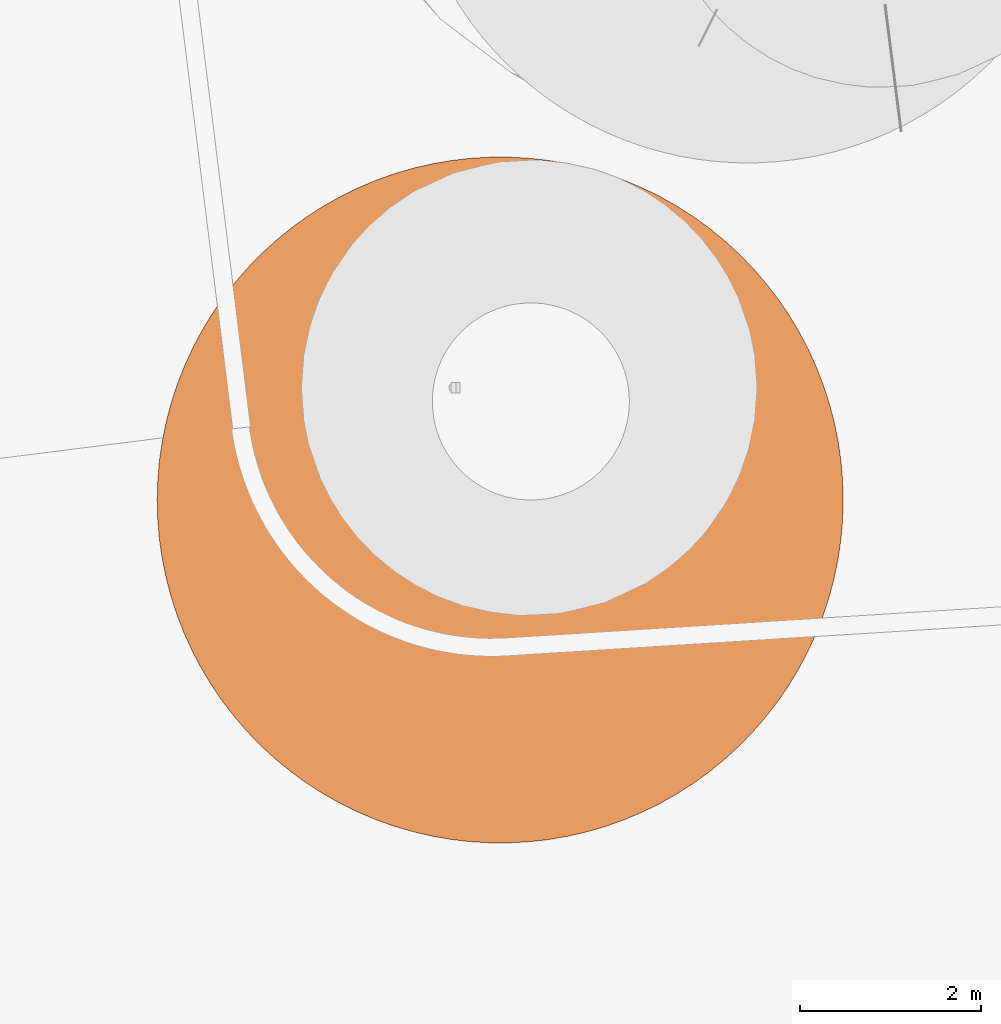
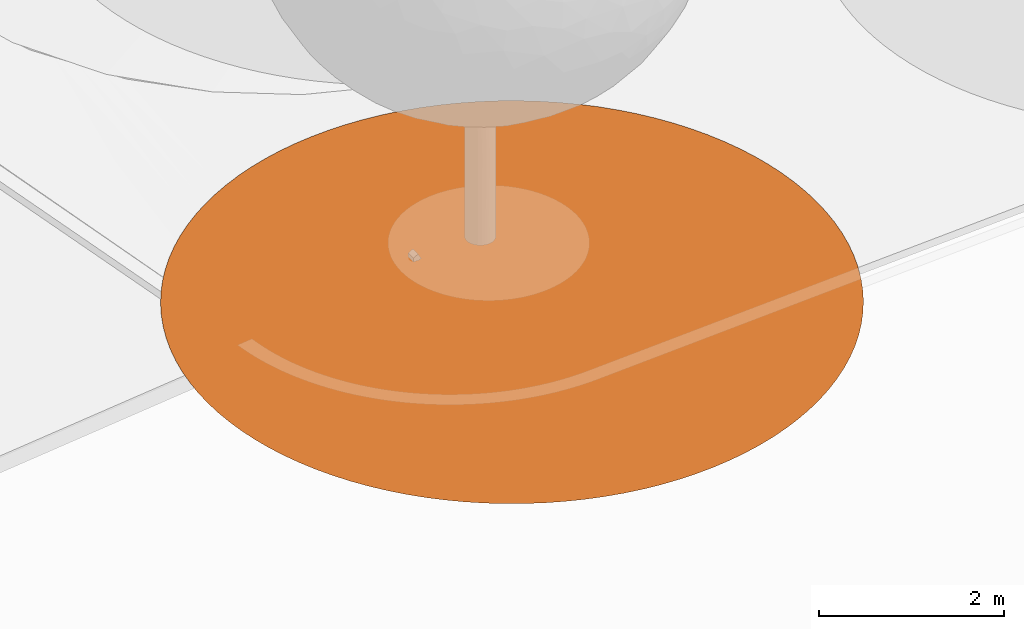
# One storey, part 62 of 75: 1 proxy.
"""IFC2X3 building model written with IfcOpenShell, lengths in metres."""

from ifc_helpers import new_model, entity, si_unit, converted_unit, derived_unit, direction, frame, origin, place, context, subcontext, project, spatial, face_set, surface_model, source, transform, mapped, material, type_object, type_shapes, element, save


model = new_model("IFC2X3")

# Units and contexts
model_context = context("Model", 3, precision=1e-05, world=origin(), true_north=direction((6.123031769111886e-17, 1.0)))
body_context = subcontext(model_context, "Body", "Model", "MODEL_VIEW")
ifc_project = project(units=[si_unit("LENGTHUNIT", "METRE"), si_unit("AREAUNIT", "SQUARE_METRE"), si_unit("VOLUMEUNIT", "CUBIC_METRE"), converted_unit("PLANEANGLEUNIT", "DEGREE", entity("IfcRatioMeasure", 0.017453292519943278), si_unit("PLANEANGLEUNIT", "RADIAN"), dimensions=[0, 0, 0, 0, 0, 0, 0]), si_unit("MASSUNIT", "GRAM", prefix="KILO"), derived_unit("MASSDENSITYUNIT", [(si_unit("MASSUNIT", "GRAM", prefix="KILO"), 1), (si_unit("LENGTHUNIT", "METRE"), -3)]), derived_unit("IONCONCENTRATIONUNIT", [(si_unit("MASSUNIT", "GRAM", prefix="KILO"), 1), (si_unit("LENGTHUNIT", "METRE"), -3)]), derived_unit("MOMENTOFINERTIAUNIT", [(si_unit("LENGTHUNIT", "METRE"), 4)]), si_unit("TIMEUNIT", "SECOND"), si_unit("FREQUENCYUNIT", "HERTZ"), si_unit("THERMODYNAMICTEMPERATUREUNIT", "DEGREE_CELSIUS"), derived_unit("THERMALTRANSMITTANCEUNIT", [(si_unit("MASSUNIT", "GRAM", prefix="KILO"), 1), (si_unit("THERMODYNAMICTEMPERATUREUNIT", "KELVIN"), -1), (si_unit("TIMEUNIT", "SECOND"), -3)]), derived_unit("THERMALCONDUCTANCEUNIT", [(si_unit("MASSUNIT", "GRAM", prefix="KILO"), 1), (si_unit("THERMODYNAMICTEMPERATUREUNIT", "KELVIN"), -1), (si_unit("TIMEUNIT", "SECOND"), -3), (si_unit("LENGTHUNIT", "METRE"), 1)]), derived_unit("VOLUMETRICFLOWRATEUNIT", [(si_unit("LENGTHUNIT", "METRE"), 3), (si_unit("TIMEUNIT", "SECOND"), -1)]), derived_unit("MASSFLOWRATEUNIT", [(si_unit("MASSUNIT", "GRAM", prefix="KILO"), 1), (si_unit("TIMEUNIT", "SECOND"), -1)]), derived_unit("ROTATIONALFREQUENCYUNIT", [(si_unit("TIMEUNIT", "SECOND"), -1)]), si_unit("ELECTRICCURRENTUNIT", "AMPERE"), si_unit("ELECTRICVOLTAGEUNIT", "VOLT"), si_unit("POWERUNIT", "WATT"), si_unit("FORCEUNIT", "NEWTON", prefix="KILO"), si_unit("ILLUMINANCEUNIT", "LUX"), si_unit("LUMINOUSFLUXUNIT", "LUMEN"), si_unit("LUMINOUSINTENSITYUNIT", "CANDELA"), derived_unit("USERDEFINED", [(si_unit("MASSUNIT", "GRAM", prefix="KILO"), -1), (si_unit("LENGTHUNIT", "METRE"), -2), (si_unit("TIMEUNIT", "SECOND"), 3), (si_unit("LUMINOUSFLUXUNIT", "LUMEN"), 1)]), derived_unit("USERDEFINED", [(si_unit("MASSUNIT", "GRAM", prefix="KILO"), 1), (si_unit("TIMEUNIT", "SECOND"), -3), (si_unit("LENGTHUNIT", "METRE"), 3), (si_unit("ELECTRICCURRENTUNIT", "AMPERE"), -2)]), derived_unit("SOUNDPOWERUNIT", [(si_unit("MASSUNIT", "GRAM", prefix="KILO"), 1), (si_unit("TIMEUNIT", "SECOND"), -3), (si_unit("LENGTHUNIT", "METRE"), 2)]), derived_unit("SOUNDPRESSUREUNIT", [(si_unit("MASSUNIT", "GRAM", prefix="KILO"), 1), (si_unit("LENGTHUNIT", "METRE"), -1), (si_unit("TIMEUNIT", "SECOND"), -2)]), derived_unit("LINEARVELOCITYUNIT", [(si_unit("LENGTHUNIT", "METRE"), 1), (si_unit("TIMEUNIT", "SECOND"), -1)]), si_unit("PRESSUREUNIT", "PASCAL"), derived_unit("USERDEFINED", [(si_unit("MASSUNIT", "GRAM", prefix="KILO"), 1), (si_unit("LENGTHUNIT", "METRE"), -2), (si_unit("TIMEUNIT", "SECOND"), -2)]), derived_unit("LINEARFORCEUNIT", [(si_unit("MASSUNIT", "GRAM", prefix="KILO"), 1), (si_unit("TIMEUNIT", "SECOND"), -2)]), derived_unit("PLANARFORCEUNIT", [(si_unit("MASSUNIT", "GRAM", prefix="KILO"), 1), (si_unit("LENGTHUNIT", "METRE"), -1), (si_unit("TIMEUNIT", "SECOND"), -2)]), derived_unit("SPECIFICHEATCAPACITYUNIT", [(si_unit("THERMODYNAMICTEMPERATUREUNIT", "KELVIN"), -1), (si_unit("LENGTHUNIT", "METRE"), 2), (si_unit("TIMEUNIT", "SECOND"), -2)]), derived_unit("HEATINGVALUEUNIT", [(si_unit("LENGTHUNIT", "METRE"), 2), (si_unit("TIMEUNIT", "SECOND"), -2)]), derived_unit("VAPORPERMEABILITYUNIT", [(si_unit("LENGTHUNIT", "METRE"), -1), (si_unit("TIMEUNIT", "SECOND"), 1)]), derived_unit("DYNAMICVISCOSITYUNIT", [(si_unit("MASSUNIT", "GRAM", prefix="KILO"), 1), (si_unit("TIMEUNIT", "SECOND"), -1), (si_unit("LENGTHUNIT", "METRE"), -1)]), derived_unit("THERMALEXPANSIONCOEFFICIENTUNIT", [(si_unit("THERMODYNAMICTEMPERATUREUNIT", "KELVIN"), -1)]), derived_unit("MODULUSOFELASTICITYUNIT", [(si_unit("MASSUNIT", "GRAM", prefix="KILO"), 1), (si_unit("LENGTHUNIT", "METRE"), -1), (si_unit("TIMEUNIT", "SECOND"), -2)]), derived_unit("ISOTHERMALMOISTURECAPACITYUNIT", [(si_unit("LENGTHUNIT", "METRE"), 3), (si_unit("MASSUNIT", "GRAM", prefix="KILO"), -1)]), derived_unit("MOISTUREDIFFUSIVITYUNIT", [(si_unit("TIMEUNIT", "SECOND"), -1), (si_unit("LENGTHUNIT", "METRE"), 2)])], contexts=[model_context])

# Site, building, storey
site_placement = place(None, origin())
site = spatial("IfcSite", under=ifc_project, at=site_placement, Name="Default", CompositionType="ELEMENT")
building_placement = place(site_placement, origin())
building = spatial("IfcBuilding", under=site, at=building_placement, Name="Projeto", CompositionType="ELEMENT")
storey_placement = place(building_placement, origin())
storey = spatial("IfcBuildingStorey", under=building, at=storey_placement, Name="Nível 1", CompositionType="ELEMENT", Elevation=0.0)

# Proxy
ifc_material = material(Name="<Unnamed>")
building_element_proxy_type = type_object("IfcBuildingElementProxyType", Name="Arvore simplificada:Arvore simplificada", PredefinedType="NOTDEFINED", material=ifc_material)
shared_shape = source(origin(), body_context, "Body", "SurfaceModel", [
    surface_model("IfcFaceBasedSurfaceModel", [(-3.9544974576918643, -0.18317979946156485, 0.0), (-3.9483138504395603, -0.3996342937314, 0.0), (-3.929783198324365, -0.6153827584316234, 0.0), (-3.8989659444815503, -0.8297214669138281, 0.0), (-3.855962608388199, -1.0419512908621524, 0.0), (-3.8009134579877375, -1.2513799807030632, 0.0), (-3.733998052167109, -1.4573244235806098, 0.0), (-3.655434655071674, -1.6591128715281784, 0.0), (-3.5654795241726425, -1.8560871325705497, 0.0), (-3.4644260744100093, -2.0476047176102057, 0.0), (-3.3526039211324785, -2.2330409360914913, 0.0), (-3.2303778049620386, -2.411790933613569, 0.0), (-3.098146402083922, -2.583271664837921, 0.0), (-2.9563410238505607, -2.7469237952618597, 0.0), (-2.8054242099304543, -2.9022135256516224, 0.0), (-2.6458882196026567, -3.048634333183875, 0.0), (-2.4782534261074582, -3.1857086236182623, 0.0), (-2.3030666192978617, -3.3129892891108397, 0.0), (-2.12089922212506, -3.430061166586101, 0.0), (-1.93234542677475, -3.5365423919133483, 0.0), (-1.7380202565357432, -3.632085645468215, 0.0), (-1.5385575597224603, -3.7163792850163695, 0.0), (-1.3346079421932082, -3.789148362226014, 0.0), (-1.1268366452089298, -3.8501555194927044, 0.0), (-0.9159213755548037, -3.8992017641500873, 0.0), (-0.7025500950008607, -3.9361271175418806, 0.0), (-0.48741877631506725, -3.9608111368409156, 0.0), (-0.2712291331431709, -3.9731733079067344, 0.0), (-0.054686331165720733, -3.9731733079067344, 0.0), (0.16150331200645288, -3.9608111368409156, 0.0), (0.3766346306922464, -3.9361271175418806, 0.0), (0.5900059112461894, -3.8992017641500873, 0.0), (0.8009211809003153, -3.8501555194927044, 0.0), (1.0086924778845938, -3.789148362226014, 0.0), (1.212642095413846, -3.7163792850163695, 0.0), (1.4121047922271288, -3.632085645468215, 0.0), (1.6064299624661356, -3.5365423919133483, 0.0), (1.7949837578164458, -3.430061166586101, 0.0), (1.9771511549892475, -3.3129892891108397, 0.0), (2.152337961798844, -3.1857086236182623, 0.0), (2.3199727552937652, -3.048634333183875, 0.0), (2.479508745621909, -2.9022135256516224, 0.0), (2.6304255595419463, -2.7469237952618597, 0.0), (2.7722309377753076, -2.583271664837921, 0.0), (2.9044623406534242, -2.411790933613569, 0.0), (3.026688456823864, -2.2330409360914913, 0.0), (3.138510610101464, -2.0476047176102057, 0.0), (3.239564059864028, -1.8560871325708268, 0.0), (3.3295191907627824, -1.6591128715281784, 0.0), (3.4080825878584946, -1.4573244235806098, 0.0), (3.474997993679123, -1.2513799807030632, 0.0), (3.5300471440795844, -1.0419512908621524, 0.0), (3.573050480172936, -0.8297214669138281, 0.0), (3.6038677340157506, -0.6153827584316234, 0.0), (3.622398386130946, -0.3996342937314, 0.0), (3.62858199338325, -0.18317979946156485, 0.0), (3.622398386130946, 0.03327469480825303, 0.0), (3.6038677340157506, 0.24902315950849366, 0.0), (3.573050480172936, 0.4633618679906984, 0.0), (3.5300471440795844, 0.6755916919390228, 0.0), (3.474997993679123, 0.8850203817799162, 0.0), (3.4080825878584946, 1.0909648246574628, 0.0), (3.3295191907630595, 1.2927532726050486, 0.0), (3.239564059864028, 1.4897275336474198, 0.0), (3.138510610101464, 1.6812451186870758, 0.0), (3.026688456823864, 1.8666813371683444, 0.0), (2.9044623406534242, 2.0454313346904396, 0.0), (2.7722309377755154, 2.2169120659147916, 0.0), (2.6304255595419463, 2.38056419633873, 0.0), (2.479508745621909, 2.535853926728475, 0.0), (2.3199727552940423, 2.682274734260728, 0.0), (2.152337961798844, 2.819349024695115, 0.0), (1.9771511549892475, 2.946629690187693, 0.0), (1.7949837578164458, 3.063701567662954, 0.0), (1.6064299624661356, 3.1701827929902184, 0.0), (1.4121047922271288, 3.265726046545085, 0.0), (1.212642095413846, 3.3500196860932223, 0.0), (1.0086924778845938, 3.422788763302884, 0.0), (0.8009211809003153, 3.4837959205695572, 0.0), (0.5900059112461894, 3.5328421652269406, 0.0), (0.3766346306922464, 3.5697675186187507, 0.0), (0.16150331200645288, 3.5944515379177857, 0.0), (-0.05468633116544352, 3.606813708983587, 0.0), (-0.27122913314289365, 3.606813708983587, 0.0), (-0.48741877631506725, 3.5944515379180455, 0.0), (-0.7025500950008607, 3.5697675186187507, 0.0), (-0.9159213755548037, 3.5328421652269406, 0.0), (-1.1268366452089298, 3.4837959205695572, 0.0), (-1.3346079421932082, 3.422788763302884, 0.0), (-1.5385575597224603, 3.3500196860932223, 0.0), (-1.7380202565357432, 3.265726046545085, 0.0), (-1.93234542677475, 3.1701827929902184, 0.0), (-2.12089922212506, 3.063701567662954, 0.0), (-2.3030666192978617, 2.946629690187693, 0.0), (-2.4782534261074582, 2.819349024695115, 0.0), (-2.6458882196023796, 2.682274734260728, 0.0), (-2.8054242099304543, 2.535853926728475, 0.0), (-2.9563410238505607, 2.38056419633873, 0.0), (-3.098146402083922, 2.2169120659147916, 0.0), (-3.2303778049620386, 2.0454313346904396, 0.0), (-3.3526039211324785, 1.8666813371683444, 0.0), (-3.4644260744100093, 1.6812451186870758, 0.0), (-3.5654795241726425, 1.4897275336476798, 0.0), (-3.6554346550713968, 1.2927532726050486, 0.0), (-3.733998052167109, 1.0909648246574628, 0.0), (-3.8009134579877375, 0.8850203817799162, 0.0), (-3.855962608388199, 0.6755916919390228, 0.0), (-3.8989659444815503, 0.4633618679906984, 0.0), (-3.929783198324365, 0.24902315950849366, 0.0), (-3.9483138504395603, 0.03327469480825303, 0.0)], [face_set([[[0, 1, 2, 3, 4, 5, 6, 7, 8, 9, 10, 11, 12, 13, 14, 15, 16, 17, 18, 19, 20, 21, 22, 23, 24, 25, 26, 27, 28, 29, 30, 31, 32, 33, 34, 35, 36, 37, 38, 39, 40, 41, 42, 43, 44, 45, 46, 47, 48, 49, 50, 51, 52, 53, 54, 55, 56, 57, 58, 59, 60, 61, 62, 63, 64, 65, 66, 67, 68, 69, 70, 71, 72, 73, 74, 75, 76, 77, 78, 79, 80, 81, 82, 83, 84, 85, 86, 87, 88, 89, 90, 91, 92, 93, 94, 95, 96, 97, 98, 99, 100, 101, 102, 103, 104, 105, 106, 107, 108, 109]]])]),
])
type_shapes(building_element_proxy_type, [shared_shape])
proxy_placement = place(storey_placement, frame((-20.41317868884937, -18.699732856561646, 0.0), z_axis=(0.0, 0.0, 1.0), x_axis=(0.9422539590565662, 0.3348992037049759, 0.0)))
element("IfcBuildingElementProxy", 1, at=proxy_placement, inside=storey, type_object=building_element_proxy_type, material=ifc_material, Name="Arvore simplificada:Arvore simplificada", ObjectType="Arvore simplificada:Arvore simplificada", context=body_context, shape_type="MappedRepresentation", body=[
    mapped(shared_shape, transform((0.0, 0.0, 0.0), scale=1.0)),
])

save(model, "model.ifc")
